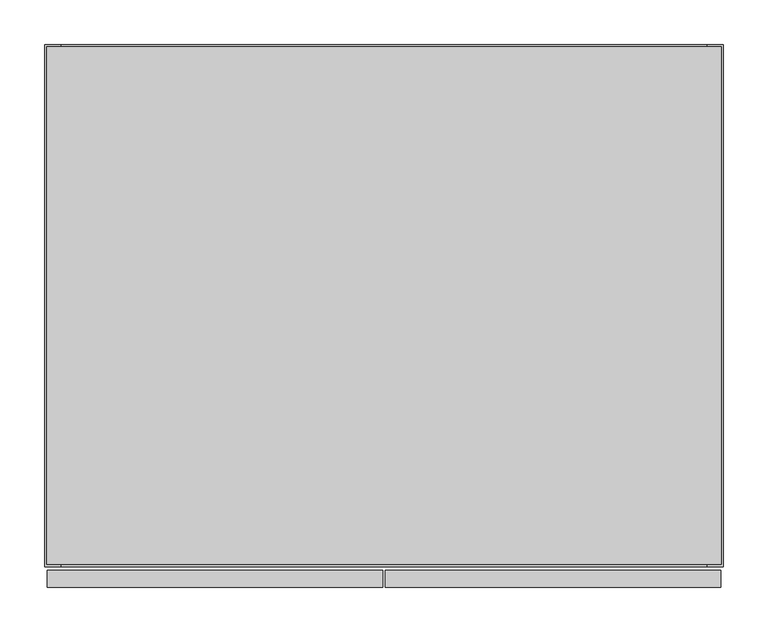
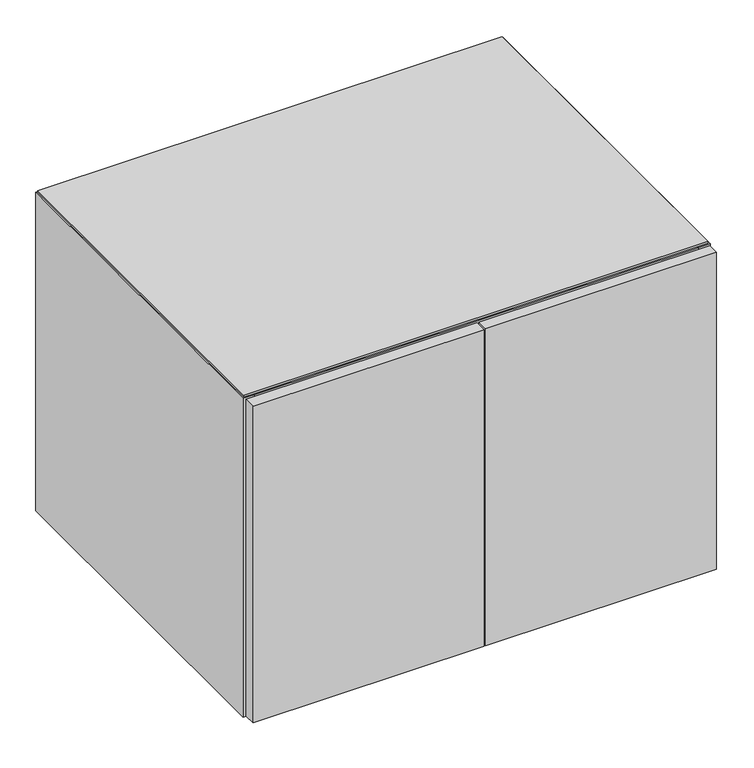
"""IFC4 building model written with IfcOpenShell, lengths in millimetres: furniture geometry, Geiger_GeigerOneCasegoods_LowStorageHingedDoors : Vertical Veneer 30Wx24Dx21.75H."""

from ifc_helpers import new_model, si_unit, point, frame, origin, place, context, project, spatial, polyline, circle_curve, ellipse_curve, trimmed, outline, extrude, source, transform, mapped, element, save
from ifc_brep_helpers import plane_surface, cylinder_surface, revolved_surface, advanced_brep


def furniture_ab2c1564(model_context):
    return source(origin(), model_context, "Body", "SolidModel", [
        extrude(outline(polyline([(19.0, -19.5), (743.0, -19.5), (743.0, -586.4), (19.0, -586.4), (19.0, -19.5)])), frame((0.0, 0.0, 73.2), z_axis=(0.0, 0.0, 1.0), x_axis=(1.0, 0.0, 0.0)), (0.0, 0.0, 1.0), 19.5072),
        extrude(outline(polyline([(3.0, -590.4), (379.5, -590.4), (379.5, -609.6), (3.0, -609.6), (3.0, -590.4)])), frame((0.0, 0.0, 15.7), z_axis=(0.0, 0.0, 1.0), x_axis=(1.0, 0.0, 0.0)), (0.0, 0.0, 1.0), 546.0),
        extrude(outline(polyline([(382.5, -590.4), (759.0, -590.4), (759.0, -609.6), (382.5, -609.6), (382.5, -590.4)])), frame((0.0, 0.0, 15.7), z_axis=(0.0, 0.0, 1.0), x_axis=(1.0, 0.0, 0.0)), (0.0, 0.0, 1.0), 546.0),
        extrude(outline(polyline([(19.0, -19.5), (743.0, -19.5), (743.0, -566.9), (19.0, -566.9), (19.0, -19.5)])), frame((0.0, 0.0, 12.7), z_axis=(0.0, 0.0, 1.0), x_axis=(1.0, 0.0, 0.0)), (0.0, 0.0, 1.0), 19.5),
        extrude(outline(polyline([(759.46, -2.54), (759.46, -583.86), (2.54, -583.86), (2.54, -2.54), (759.46, -2.54)])), frame((0.0, 0.0, 561.7), z_axis=(0.0, 0.0, 1.0), x_axis=(1.0, 0.0, 0.0)), (0.0, 0.0, 1.0), 3.2766),
        extrude(outline(polyline([(19.0, -95.7), (743.0, -95.7), (743.0, -586.4), (19.0, -586.4), (19.0, -95.7)])), frame((0.0, 0.0, 542.2), z_axis=(0.0, 0.0, 1.0), x_axis=(1.0, 0.0, 0.0)), (0.0, 0.0, 1.0), 19.5),
        extrude(outline(polyline([(743.0, -19.5), (19.0, -19.5), (19.0, 0.0), (743.0, 0.0), (743.0, -19.5)])), frame((0.0, 0.0, 12.7), z_axis=(0.0, 0.0, 1.0), x_axis=(1.0, 0.0, 0.0)), (0.0, 0.0, 1.0), 549.0),
        extrude(outline(polyline([(19.0, -566.9), (743.0, -566.9), (743.0, -586.4), (19.0, -586.4), (19.0, -566.9)])), frame((0.0, 0.0, 12.7), z_axis=(0.0, 0.0, 1.0), x_axis=(1.0, 0.0, 0.0)), (0.0, 0.0, 1.0), 60.5),
        extrude(outline(polyline([(19.0, -586.4), (0.0, -586.4), (0.0, -0.5), (19.0, -0.5), (19.0, -586.4)])), frame((0.0, 0.0, 12.7), z_axis=(0.0, 0.0, 1.0), x_axis=(1.0, 0.0, 0.0)), (0.0, 0.0, 1.0), 549.0),
        extrude(outline(polyline([(762.0, -586.4), (743.0, -586.4), (743.0, -0.5), (762.0, -0.5), (762.0, -586.4)])), frame((0.0, 0.0, 12.7), z_axis=(0.0, 0.0, 1.0), x_axis=(1.0, 0.0, 0.0)), (0.0, 0.0, 1.0), 549.0),
        advanced_brep(
        [(94.0575663, -528.9165105, 0.0), (71.9424337, -528.9165105, 0.0), (83.0, -528.9165105, 0.0), (94.0575663, -528.9165105, 9.5), (71.9424337, -528.9165105, 9.5), (87.066455, -528.9165105, 9.5), (78.933545, -528.9165105, 9.5), (87.066455, -528.9165105, 12.7), (78.933545, -528.9165105, 12.7), (83.0, -528.9165105, 12.7)],
        [
            (0, 1, circle_curve(frame((83.0, -528.9165105, 0.0), z_axis=(0.0, 0.0, -1.0), x_axis=(-1.0, 0.0, 0.0)), 11.0575663)),
            (1, 2),
            (2, 0),
            (1, 0, circle_curve(frame((83.0, -528.9165105, 0.0), z_axis=(0.0, 0.0, -1.0), x_axis=(-1.0, 0.0, 0.0)), 11.0575663)),
            (0, 3, circle_curve(frame((94.0575663, -528.9165105, 4.75), z_axis=(0.0, -1.0, 0.0), x_axis=(1.0, 0.0, 0.0)), 4.75)),
            (3, 4, circle_curve(frame((83.0, -528.9165105, 9.5), z_axis=(0.0, 0.0, -1.0), x_axis=(-1.0, 0.0, 0.0)), 11.0575663)),
            (4, 1, circle_curve(frame((71.9424337, -528.9165105, 4.75), z_axis=(0.0, -1.0, 0.0), x_axis=(-1.0, 0.0, 0.0)), 4.75)),
            (4, 3, circle_curve(frame((83.0, -528.9165105, 9.5), z_axis=(0.0, 0.0, -1.0), x_axis=(-1.0, 0.0, 0.0)), 11.0575663)),
            (3, 5),
            (5, 6, circle_curve(frame((83.0, -528.9165105, 9.5), z_axis=(0.0, 0.0, -1.0), x_axis=(-1.0, 0.0, 0.0)), 4.066455)),
            (6, 4),
            (6, 5, circle_curve(frame((83.0, -528.9165105, 9.5), z_axis=(0.0, 0.0, -1.0), x_axis=(-1.0, 0.0, 0.0)), 4.066455)),
            (5, 7),
            (7, 8, circle_curve(frame((83.0, -528.9165105, 12.7), z_axis=(0.0, 0.0, -1.0), x_axis=(-1.0, 0.0, 0.0)), 4.066455)),
            (8, 6),
            (8, 7, circle_curve(frame((83.0, -528.9165105, 12.7), z_axis=(0.0, 0.0, -1.0), x_axis=(-1.0, 0.0, 0.0)), 4.066455)),
            (7, 9),
            (9, 8),
        ],
        [
            plane_surface(frame((83.0, -528.9165105, 0.0), z_axis=(0.0, 0.0, -1.0), x_axis=(-1.0, 0.0, 0.0))),
            revolved_surface(trimmed(ellipse_curve(frame((71.9424337, -528.9165105, 4.75), z_axis=(0.0, 1.0, 0.0), x_axis=(-1.0, 0.0, 0.0)), 4.75, 4.75), [point((71.9424337, -528.9165105, 0.0))], [point((71.9424337, -528.9165105, 9.5))], True, "CARTESIAN"), (83.0, -528.9165105, 0.0), (0.0, 0.0, 1.0)),
            plane_surface(frame((83.0, -528.9165105, 9.5), z_axis=(0.0, 0.0, 1.0), x_axis=(-1.0, 0.0, 0.0))),
            cylinder_surface(frame((83.0, -528.9165105, 0.0), z_axis=(0.0, 0.0, 1.0), x_axis=(-1.0, 0.0, 0.0)), 4.066455),
            plane_surface(frame((83.0, -528.9165105, 12.7), z_axis=(0.0, 0.0, 1.0), x_axis=(-1.0, 0.0, 0.0))),
        ],
        [
            (0, [[1, 2, 3]]),
            (0, [[-2, 4, -3]]),
            (1, [[-1, 5, 6, 7]]),
            (1, [[-4, -7, 8, -5]]),
            (2, [[-6, 9, 10, 11]]),
            (2, [[-8, -11, 12, -9]]),
            (3, [[-10, 13, 14, 15]]),
            (3, [[-12, -15, 16, -13]]),
            (4, [[-14, 17, 18]]),
            (4, [[-16, -18, -17]]),
        ],
    ),
        advanced_brep(
        [(94.0575663, -127.0, 0.0), (71.9424337, -127.0, 0.0), (83.0, -127.0, 0.0), (94.0575663, -127.0, 9.5), (71.9424337, -127.0, 9.5), (87.066455, -127.0, 9.5), (78.933545, -127.0, 9.5), (87.066455, -127.0, 12.7), (78.933545, -127.0, 12.7), (83.0, -127.0, 12.7)],
        [
            (0, 1, circle_curve(frame((83.0, -127.0, 0.0), z_axis=(0.0, 0.0, -1.0), x_axis=(-1.0, 0.0, 0.0)), 11.0575663)),
            (1, 2),
            (2, 0),
            (1, 0, circle_curve(frame((83.0, -127.0, 0.0), z_axis=(0.0, 0.0, -1.0), x_axis=(-1.0, 0.0, 0.0)), 11.0575663)),
            (0, 3, circle_curve(frame((94.0575663, -127.0, 4.75), z_axis=(0.0, -1.0, 0.0), x_axis=(1.0, 0.0, 0.0)), 4.75)),
            (3, 4, circle_curve(frame((83.0, -127.0, 9.5), z_axis=(0.0, 0.0, -1.0), x_axis=(-1.0, 0.0, 0.0)), 11.0575663)),
            (4, 1, circle_curve(frame((71.9424337, -127.0, 4.75), z_axis=(0.0, -1.0, 0.0), x_axis=(-1.0, 0.0, 0.0)), 4.75)),
            (4, 3, circle_curve(frame((83.0, -127.0, 9.5), z_axis=(0.0, 0.0, -1.0), x_axis=(-1.0, 0.0, 0.0)), 11.0575663)),
            (3, 5),
            (5, 6, circle_curve(frame((83.0, -127.0, 9.5), z_axis=(0.0, 0.0, -1.0), x_axis=(-1.0, 0.0, 0.0)), 4.066455)),
            (6, 4),
            (6, 5, circle_curve(frame((83.0, -127.0, 9.5), z_axis=(0.0, 0.0, -1.0), x_axis=(-1.0, 0.0, 0.0)), 4.066455)),
            (5, 7),
            (7, 8, circle_curve(frame((83.0, -127.0, 12.7), z_axis=(0.0, 0.0, -1.0), x_axis=(-1.0, 0.0, 0.0)), 4.066455)),
            (8, 6),
            (8, 7, circle_curve(frame((83.0, -127.0, 12.7), z_axis=(0.0, 0.0, -1.0), x_axis=(-1.0, 0.0, 0.0)), 4.066455)),
            (7, 9),
            (9, 8),
        ],
        [
            plane_surface(frame((83.0, -127.0, 0.0), z_axis=(0.0, 0.0, -1.0), x_axis=(-1.0, 0.0, 0.0))),
            revolved_surface(trimmed(ellipse_curve(frame((71.9424337, -127.0, 4.75), z_axis=(0.0, 1.0, 0.0), x_axis=(-1.0, 0.0, 0.0)), 4.75, 4.75), [point((71.9424337, -127.0, 0.0))], [point((71.9424337, -127.0, 9.5))], True, "CARTESIAN"), (83.0, -127.0, 0.0), (0.0, 0.0, 1.0)),
            plane_surface(frame((83.0, -127.0, 9.5), z_axis=(0.0, 0.0, 1.0), x_axis=(-1.0, 0.0, 0.0))),
            cylinder_surface(frame((83.0, -127.0, 0.0), z_axis=(0.0, 0.0, 1.0), x_axis=(-1.0, 0.0, 0.0)), 4.066455),
            plane_surface(frame((83.0, -127.0, 12.7), z_axis=(0.0, 0.0, 1.0), x_axis=(-1.0, 0.0, 0.0))),
        ],
        [
            (0, [[1, 2, 3]]),
            (0, [[-2, 4, -3]]),
            (1, [[-1, 5, 6, 7]]),
            (1, [[-4, -7, 8, -5]]),
            (2, [[-6, 9, 10, 11]]),
            (2, [[-8, -11, 12, -9]]),
            (3, [[-10, 13, 14, 15]]),
            (3, [[-12, -15, 16, -13]]),
            (4, [[-14, 17, 18]]),
            (4, [[-16, -18, -17]]),
        ],
    ),
        advanced_brep(
        [(679.0, -528.9165105, 0.0), (690.0575663, -528.9165105, 0.0), (667.9424337, -528.9165105, 0.0), (690.0575663, -528.9165105, 9.5), (667.9424337, -528.9165105, 9.5), (683.066455, -528.9165105, 9.5), (674.933545, -528.9165105, 9.5), (683.066455, -528.9165105, 12.7), (674.933545, -528.9165105, 12.7), (679.0, -528.9165105, 12.7)],
        [
            (0, 1),
            (1, 2, circle_curve(frame((679.0, -528.9165105, 0.0), z_axis=(0.0, 0.0, -1.0), x_axis=(1.0, 0.0, 0.0)), 11.0575663)),
            (2, 0),
            (2, 1, circle_curve(frame((679.0, -528.9165105, 0.0), z_axis=(0.0, 0.0, -1.0), x_axis=(1.0, 0.0, 0.0)), 11.0575663)),
            (1, 3, circle_curve(frame((690.0575663, -528.9165105, 4.75), z_axis=(0.0, -1.0, 0.0), x_axis=(-1.0, 0.0, 0.0)), 4.75)),
            (3, 4, circle_curve(frame((679.0, -528.9165105, 9.5), z_axis=(0.0, 0.0, -1.0), x_axis=(1.0, 0.0, 0.0)), 11.0575663)),
            (4, 2, circle_curve(frame((667.9424337, -528.9165105, 4.75), z_axis=(0.0, -1.0, 0.0), x_axis=(1.0, 0.0, 0.0)), 4.75)),
            (4, 3, circle_curve(frame((679.0, -528.9165105, 9.5), z_axis=(0.0, 0.0, -1.0), x_axis=(1.0, 0.0, 0.0)), 11.0575663)),
            (3, 5),
            (5, 6, circle_curve(frame((679.0, -528.9165105, 9.5), z_axis=(0.0, 0.0, -1.0), x_axis=(1.0, 0.0, 0.0)), 4.066455)),
            (6, 4),
            (6, 5, circle_curve(frame((679.0, -528.9165105, 9.5), z_axis=(0.0, 0.0, -1.0), x_axis=(1.0, 0.0, 0.0)), 4.066455)),
            (5, 7),
            (7, 8, circle_curve(frame((679.0, -528.9165105, 12.7), z_axis=(0.0, 0.0, -1.0), x_axis=(1.0, 0.0, 0.0)), 4.066455)),
            (8, 6),
            (8, 7, circle_curve(frame((679.0, -528.9165105, 12.7), z_axis=(0.0, 0.0, -1.0), x_axis=(1.0, 0.0, 0.0)), 4.066455)),
            (7, 9),
            (9, 8),
        ],
        [
            plane_surface(frame((679.0, -528.9165105, 0.0), z_axis=(0.0, 0.0, -1.0), x_axis=(1.0, 0.0, 0.0))),
            revolved_surface(trimmed(ellipse_curve(frame((690.0575663, -528.9165105, 4.75), z_axis=(0.0, 1.0, 0.0), x_axis=(-1.0, 0.0, 0.0)), 4.75, 4.75), [point((690.0575663, -528.9165105, 9.5))], [point((690.0575663, -528.9165105, 0.0))], True, "CARTESIAN"), (679.0, -528.9165105, 0.0), (0.0, 0.0, -1.0)),
            plane_surface(frame((679.0, -528.9165105, 9.5), z_axis=(0.0, 0.0, 1.0), x_axis=(1.0, 0.0, 0.0))),
            cylinder_surface(frame((679.0, -528.9165105, 0.0), z_axis=(0.0, 0.0, -1.0), x_axis=(1.0, 0.0, 0.0)), 4.066455),
            plane_surface(frame((679.0, -528.9165105, 12.7), z_axis=(0.0, 0.0, 1.0), x_axis=(1.0, 0.0, 0.0))),
        ],
        [
            (0, [[1, 2, 3]]),
            (0, [[-1, -3, 4]]),
            (1, [[-2, 5, 6, 7]]),
            (1, [[-4, -7, 8, -5]]),
            (2, [[-6, 9, 10, 11]]),
            (2, [[-8, -11, 12, -9]]),
            (3, [[-10, 13, 14, 15]]),
            (3, [[-12, -15, 16, -13]]),
            (4, [[-14, 17, 18]]),
            (4, [[-16, -18, -17]]),
        ],
    ),
        advanced_brep(
        [(679.0, -127.0, 0.0), (690.0575663, -127.0, 0.0), (667.9424337, -127.0, 0.0), (690.0575663, -127.0, 9.5), (667.9424337, -127.0, 9.5), (683.066455, -127.0, 9.5), (674.933545, -127.0, 9.5), (683.066455, -127.0, 12.7), (674.933545, -127.0, 12.7), (679.0, -127.0, 12.7)],
        [
            (0, 1),
            (1, 2, circle_curve(frame((679.0, -127.0, 0.0), z_axis=(0.0, 0.0, -1.0), x_axis=(1.0, 0.0, 0.0)), 11.0575663)),
            (2, 0),
            (2, 1, circle_curve(frame((679.0, -127.0, 0.0), z_axis=(0.0, 0.0, -1.0), x_axis=(1.0, 0.0, 0.0)), 11.0575663)),
            (1, 3, circle_curve(frame((690.0575663, -127.0, 4.75), z_axis=(0.0, -1.0, 0.0), x_axis=(-1.0, 0.0, 0.0)), 4.75)),
            (3, 4, circle_curve(frame((679.0, -127.0, 9.5), z_axis=(0.0, 0.0, -1.0), x_axis=(1.0, 0.0, 0.0)), 11.0575663)),
            (4, 2, circle_curve(frame((667.9424337, -127.0, 4.75), z_axis=(0.0, -1.0, 0.0), x_axis=(1.0, 0.0, 0.0)), 4.75)),
            (4, 3, circle_curve(frame((679.0, -127.0, 9.5), z_axis=(0.0, 0.0, -1.0), x_axis=(1.0, 0.0, 0.0)), 11.0575663)),
            (3, 5),
            (5, 6, circle_curve(frame((679.0, -127.0, 9.5), z_axis=(0.0, 0.0, -1.0), x_axis=(1.0, 0.0, 0.0)), 4.066455)),
            (6, 4),
            (6, 5, circle_curve(frame((679.0, -127.0, 9.5), z_axis=(0.0, 0.0, -1.0), x_axis=(1.0, 0.0, 0.0)), 4.066455)),
            (5, 7),
            (7, 8, circle_curve(frame((679.0, -127.0, 12.7), z_axis=(0.0, 0.0, -1.0), x_axis=(1.0, 0.0, 0.0)), 4.066455)),
            (8, 6),
            (8, 7, circle_curve(frame((679.0, -127.0, 12.7), z_axis=(0.0, 0.0, -1.0), x_axis=(1.0, 0.0, 0.0)), 4.066455)),
            (7, 9),
            (9, 8),
        ],
        [
            plane_surface(frame((679.0, -127.0, 0.0), z_axis=(0.0, 0.0, -1.0), x_axis=(1.0, 0.0, 0.0))),
            revolved_surface(trimmed(ellipse_curve(frame((690.0575663, -127.0, 4.75), z_axis=(0.0, 1.0, 0.0), x_axis=(-1.0, 0.0, 0.0)), 4.75, 4.75), [point((690.0575663, -127.0, 9.5))], [point((690.0575663, -127.0, 0.0))], True, "CARTESIAN"), (679.0, -127.0, 0.0), (0.0, 0.0, -1.0)),
            plane_surface(frame((679.0, -127.0, 9.5), z_axis=(0.0, 0.0, 1.0), x_axis=(1.0, 0.0, 0.0))),
            cylinder_surface(frame((679.0, -127.0, 0.0), z_axis=(0.0, 0.0, -1.0), x_axis=(1.0, 0.0, 0.0)), 4.066455),
            plane_surface(frame((679.0, -127.0, 12.7), z_axis=(0.0, 0.0, 1.0), x_axis=(1.0, 0.0, 0.0))),
        ],
        [
            (0, [[1, 2, 3]]),
            (0, [[-1, -3, 4]]),
            (1, [[-2, 5, 6, 7]]),
            (1, [[-4, -7, 8, -5]]),
            (2, [[-6, 9, 10, 11]]),
            (2, [[-8, -11, 12, -9]]),
            (3, [[-10, 13, 14, 15]]),
            (3, [[-12, -15, 16, -13]]),
            (4, [[-14, 17, 18]]),
            (4, [[-16, -18, -17]]),
        ],
    ),
    ])


if __name__ == "__main__":
    model = new_model("IFC4")
    model_context = context("Model", 3, world=origin())
    ifc_project = project(units=[si_unit("LENGTHUNIT", "METRE", prefix="MILLI")], contexts=[model_context])
    site = spatial("IfcSite", under=ifc_project)
    building = spatial("IfcBuilding", under=site)
    placement = place(None, origin())
    furniture_shape = furniture_ab2c1564(model_context)
    element("IfcFurniture", 1, ObjectType="Geiger_GeigerOneCasegoods_LowStorageHingedDoors : Vertical Veneer 30Wx24Dx21.75H", at=placement, inside=building, context=model_context, shape_type="MappedRepresentation", body=[
        mapped(furniture_shape, transform((0.0, 0.0, 0.0), x_axis=(1.0, 0.0, 0.0), y_axis=(0.0, 1.0, 0.0), z_axis=(0.0, 0.0, 1.0))),
    ])
    save(model, "model.ifc")
